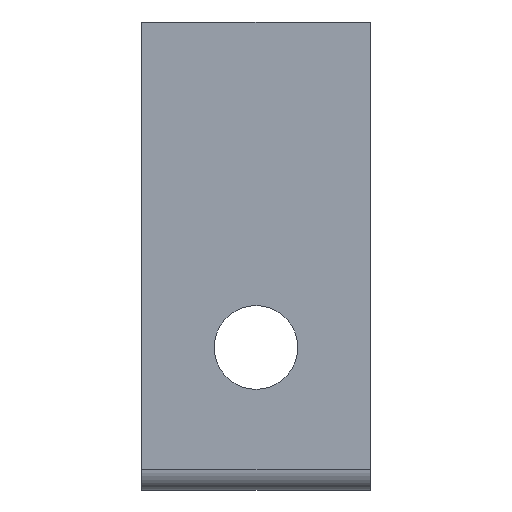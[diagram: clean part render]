
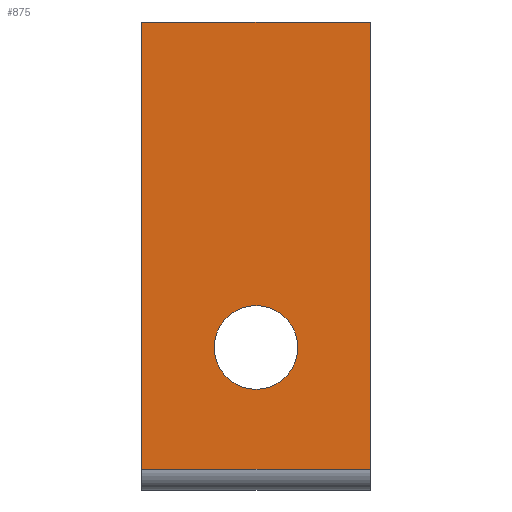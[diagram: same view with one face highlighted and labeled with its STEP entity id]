
A CAD part, front view. The second image highlights one B-rep face of the part: STEP entity #875.
In plain terms, the highlighted planar face has unit normal (0, -1, 0).
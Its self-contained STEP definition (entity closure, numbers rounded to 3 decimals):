
#4 = EDGE_CURVE ( 'NONE', #1959, #580, #9, .T. ) ;
#9 = CIRCLE ( 'NONE', #1217, 11. ) ;
#27 = VERTEX_POINT ( 'NONE', #233 ) ;
#99 = CARTESIAN_POINT ( 'NONE',  ( 30., 298.75, 202.25 ) ) ;
#109 = VERTEX_POINT ( 'NONE', #3035 ) ;
#180 = CARTESIAN_POINT ( 'NONE',  ( 30., 298.75, 213.25 ) ) ;
#233 = CARTESIAN_POINT ( 'NONE',  ( 0., 298.75, 298.75 ) ) ;
#290 = DIRECTION ( 'NONE',  ( 0., -1., 0. ) ) ;
#394 = VERTEX_POINT ( 'NONE', #1079 ) ;
#435 = CARTESIAN_POINT ( 'NONE',  ( 60., 298.75, 298.75 ) ) ;
#496 = LINE ( 'NONE', #1130, #2458 ) ;
#541 = ORIENTED_EDGE ( 'NONE', *, *, #2045, .F. ) ;
#560 = CARTESIAN_POINT ( 'NONE',  ( 0., 298.75, 298.75 ) ) ;
#580 = VERTEX_POINT ( 'NONE', #1372 ) ;
#665 = VECTOR ( 'NONE', #3088, 1000. ) ;
#706 = CARTESIAN_POINT ( 'NONE',  ( 0., 298.75, 181.303 ) ) ;
#875 = ADVANCED_FACE ( 'NONE', ( #2133, #2093 ), #2113, .T. ) ;
#899 = ORIENTED_EDGE ( 'NONE', *, *, #1172, .T. ) ;
#926 = DIRECTION ( 'NONE',  ( 0., 0., -1. ) ) ;
#1041 = LINE ( 'NONE', #706, #1659 ) ;
#1051 = VECTOR ( 'NONE', #2393, 1000. ) ;
#1079 = CARTESIAN_POINT ( 'NONE',  ( 60., 298.75, 181.303 ) ) ;
#1111 = EDGE_LOOP ( 'NONE', ( #2310, #1848 ) ) ;
#1130 = CARTESIAN_POINT ( 'NONE',  ( 0., 298.75, 298.75 ) ) ;
#1172 = EDGE_CURVE ( 'NONE', #109, #394, #1041, .T. ) ;
#1217 = AXIS2_PLACEMENT_3D ( 'NONE', #3254, #1498, #2034 ) ;
#1303 = CARTESIAN_POINT ( 'NONE',  ( 0., 298.75, 298.75 ) ) ;
#1359 = CARTESIAN_POINT ( 'NONE',  ( 60., 298.75, 298.75 ) ) ;
#1372 = CARTESIAN_POINT ( 'NONE',  ( 30., 298.75, 224.25 ) ) ;
#1395 = DIRECTION ( 'NONE',  ( 0., 0., 1. ) ) ;
#1466 = LINE ( 'NONE', #1303, #665 ) ;
#1498 = DIRECTION ( 'NONE',  ( 0., -1., 0. ) ) ;
#1577 = EDGE_CURVE ( 'NONE', #580, #1959, #1973, .T. ) ;
#1659 = VECTOR ( 'NONE', #1971, 1000. ) ;
#1848 = ORIENTED_EDGE ( 'NONE', *, *, #4, .F. ) ;
#1879 = EDGE_CURVE ( 'NONE', #27, #2399, #1466, .T. ) ;
#1959 = VERTEX_POINT ( 'NONE', #99 ) ;
#1971 = DIRECTION ( 'NONE',  ( 1., 0., 0. ) ) ;
#1973 = CIRCLE ( 'NONE', #2499, 11. ) ;
#2034 = DIRECTION ( 'NONE',  ( 0., 0., -1. ) ) ;
#2045 = EDGE_CURVE ( 'NONE', #109, #27, #496, .T. ) ;
#2093 = FACE_OUTER_BOUND ( 'NONE', #2455, .T. ) ;
#2113 = PLANE ( 'NONE',  #2228 ) ;
#2133 = FACE_BOUND ( 'NONE', #1111, .T. ) ;
#2176 = LINE ( 'NONE', #1359, #1051 ) ;
#2228 = AXIS2_PLACEMENT_3D ( 'NONE', #560, #290, #2663 ) ;
#2310 = ORIENTED_EDGE ( 'NONE', *, *, #1577, .F. ) ;
#2393 = DIRECTION ( 'NONE',  ( 0., 0., -1. ) ) ;
#2399 = VERTEX_POINT ( 'NONE', #435 ) ;
#2420 = ORIENTED_EDGE ( 'NONE', *, *, #2781, .F. ) ;
#2455 = EDGE_LOOP ( 'NONE', ( #541, #899, #2420, #2768 ) ) ;
#2458 = VECTOR ( 'NONE', #1395, 1000. ) ;
#2499 = AXIS2_PLACEMENT_3D ( 'NONE', #180, #2989, #926 ) ;
#2663 = DIRECTION ( 'NONE',  ( -1., 0., 0. ) ) ;
#2768 = ORIENTED_EDGE ( 'NONE', *, *, #1879, .F. ) ;
#2781 = EDGE_CURVE ( 'NONE', #2399, #394, #2176, .T. ) ;
#2989 = DIRECTION ( 'NONE',  ( 0., -1., 0. ) ) ;
#3035 = CARTESIAN_POINT ( 'NONE',  ( 0., 298.75, 181.303 ) ) ;
#3088 = DIRECTION ( 'NONE',  ( 1., 0., 0. ) ) ;
#3254 = CARTESIAN_POINT ( 'NONE',  ( 30., 298.75, 213.25 ) ) ;
